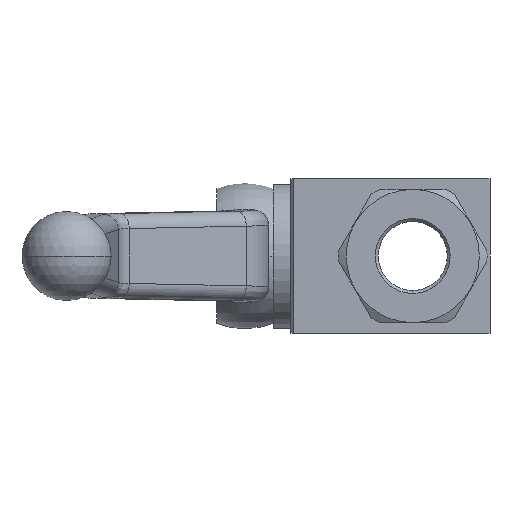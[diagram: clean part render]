
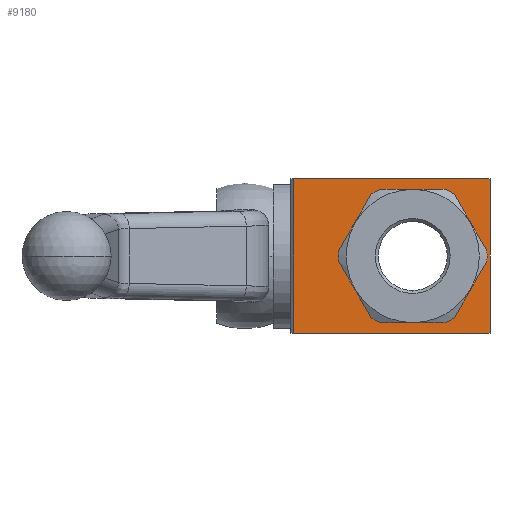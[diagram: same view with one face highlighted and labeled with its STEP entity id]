
A CAD part, left-side view. The second image highlights one B-rep face of the part: STEP entity #9180.
In plain terms, the highlighted planar face has unit normal (-1, 0, 0).
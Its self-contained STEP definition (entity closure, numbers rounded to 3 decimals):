
#12 = EDGE_CURVE ( 'NONE', #6779, #10745, #9964, .T. ) ;
#144 = DIRECTION ( 'NONE',  ( 0., -1., 0. ) ) ;
#159 = VERTEX_POINT ( 'NONE', #8856 ) ;
#230 = VECTOR ( 'NONE', #1928, 1000. ) ;
#369 = ORIENTED_EDGE ( 'NONE', *, *, #5068, .T. ) ;
#395 = ORIENTED_EDGE ( 'NONE', *, *, #1247, .F. ) ;
#435 = LINE ( 'NONE', #10587, #9430 ) ;
#555 = VERTEX_POINT ( 'NONE', #2183 ) ;
#690 = VECTOR ( 'NONE', #9578, 1000. ) ;
#737 = DIRECTION ( 'NONE',  ( 0., 0., 1. ) ) ;
#1086 = CARTESIAN_POINT ( 'NONE',  ( -18.5, -16.75, 13. ) ) ;
#1247 = EDGE_CURVE ( 'NONE', #8402, #555, #1622, .T. ) ;
#1300 = EDGE_LOOP ( 'NONE', ( #395, #7517 ) ) ;
#1622 = CIRCLE ( 'NONE', #7301, 11. ) ;
#1657 = VERTEX_POINT ( 'NONE', #7744 ) ;
#1928 = DIRECTION ( 'NONE',  ( 0., 0., -1. ) ) ;
#2019 = FACE_OUTER_BOUND ( 'NONE', #9122, .T. ) ;
#2183 = CARTESIAN_POINT ( 'NONE',  ( -18.5, -3.75, -11. ) ) ;
#2281 = EDGE_CURVE ( 'NONE', #1657, #6779, #10014, .T. ) ;
#2591 = AXIS2_PLACEMENT_3D ( 'NONE', #5034, #11129, #5894 ) ;
#2956 = EDGE_CURVE ( 'NONE', #555, #8402, #7452, .T. ) ;
#3230 = DIRECTION ( 'NONE',  ( 0., -1., 0. ) ) ;
#3835 = ORIENTED_EDGE ( 'NONE', *, *, #2281, .F. ) ;
#3859 = CARTESIAN_POINT ( 'NONE',  ( -18.5, -16.75, -13. ) ) ;
#4042 = CARTESIAN_POINT ( 'NONE',  ( -18.5, -3.75, 11. ) ) ;
#4390 = CARTESIAN_POINT ( 'NONE',  ( -18.5, -16.75, 13. ) ) ;
#4631 = DIRECTION ( 'NONE',  ( 1., 0., 0. ) ) ;
#5034 = CARTESIAN_POINT ( 'NONE',  ( -18.5, -3.75, 0. ) ) ;
#5068 = EDGE_CURVE ( 'NONE', #159, #10745, #435, .T. ) ;
#5894 = DIRECTION ( 'NONE',  ( 0., 0., 1. ) ) ;
#5957 = DIRECTION ( 'NONE',  ( -1., 0., 0. ) ) ;
#6682 = CARTESIAN_POINT ( 'NONE',  ( -18.5, 16.75, 13. ) ) ;
#6779 = VERTEX_POINT ( 'NONE', #1086 ) ;
#7187 = LINE ( 'NONE', #10573, #230 ) ;
#7301 = AXIS2_PLACEMENT_3D ( 'NONE', #11194, #5957, #737 ) ;
#7312 = EDGE_CURVE ( 'NONE', #1657, #159, #7187, .T. ) ;
#7452 = CIRCLE ( 'NONE', #2591, 11. ) ;
#7517 = ORIENTED_EDGE ( 'NONE', *, *, #2956, .F. ) ;
#7744 = CARTESIAN_POINT ( 'NONE',  ( -18.5, 16.25, 13. ) ) ;
#8042 = PLANE ( 'NONE',  #9205 ) ;
#8323 = ORIENTED_EDGE ( 'NONE', *, *, #12, .F. ) ;
#8402 = VERTEX_POINT ( 'NONE', #4042 ) ;
#8424 = ORIENTED_EDGE ( 'NONE', *, *, #7312, .T. ) ;
#8856 = CARTESIAN_POINT ( 'NONE',  ( -18.5, 16.25, -13. ) ) ;
#9122 = EDGE_LOOP ( 'NONE', ( #369, #8323, #3835, #8424 ) ) ;
#9180 = ADVANCED_FACE ( 'NONE', ( #2019, #10732 ), #8042, .F. ) ;
#9205 = AXIS2_PLACEMENT_3D ( 'NONE', #9845, #4631, #10709 ) ;
#9430 = VECTOR ( 'NONE', #144, 1000. ) ;
#9578 = DIRECTION ( 'NONE',  ( 0., 0., -1. ) ) ;
#9738 = VECTOR ( 'NONE', #3230, 1000. ) ;
#9845 = CARTESIAN_POINT ( 'NONE',  ( -18.5, 16.75, 13. ) ) ;
#9964 = LINE ( 'NONE', #4390, #690 ) ;
#10014 = LINE ( 'NONE', #6682, #9738 ) ;
#10573 = CARTESIAN_POINT ( 'NONE',  ( -18.5, 16.25, 13. ) ) ;
#10587 = CARTESIAN_POINT ( 'NONE',  ( -18.5, 16.75, -13. ) ) ;
#10709 = DIRECTION ( 'NONE',  ( 0., 1., 0. ) ) ;
#10732 = FACE_BOUND ( 'NONE', #1300, .T. ) ;
#10745 = VERTEX_POINT ( 'NONE', #3859 ) ;
#11129 = DIRECTION ( 'NONE',  ( -1., 0., 0. ) ) ;
#11194 = CARTESIAN_POINT ( 'NONE',  ( -18.5, -3.75, 0. ) ) ;
